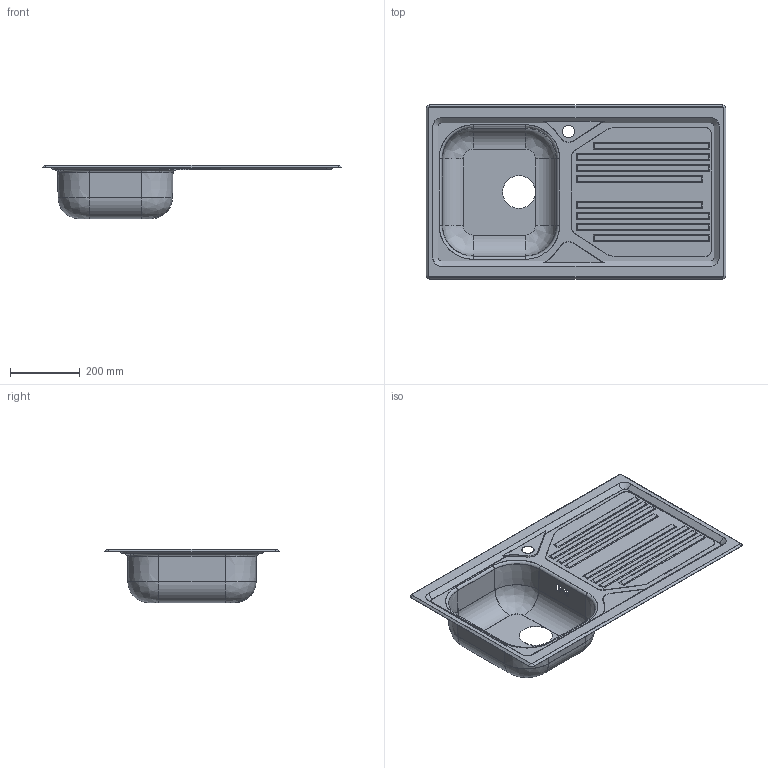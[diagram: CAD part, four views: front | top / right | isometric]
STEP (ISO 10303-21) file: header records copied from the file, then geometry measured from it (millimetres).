
FILE_DESCRIPTION(('CATIA V5 STEP Exchange'),'2;1');
FILE_NAME('\\sr02\Apell\Disegni\DISEGNI\LAVELLI\Omni\Parti\LYP861D\LYP861D.stp','2018-02-23T15:44:06+00:00',('none'),('none'),'CATIA Version 5-6 Release 2014','CATIA V5 STEP AP203','none');
FILE_SCHEMA(('CONFIG_CONTROL_DESIGN'));
Length unit declared in the file: millimetre
Products named in the file (1): 891393
Bounding box: 860 x 500 x 153.6 mm (x, y, z)
Volume: 516969.2 mm3; surface area: 1726466.5 mm2
Topology: 2 solids, 3 shells, 244 faces, 608 edges, 388 vertices
Faces by surface type: plane 150, cylinder 54, cone 24, torus 8, revolution 8
Entity records: 7082 total; most frequent: CARTESIAN_POINT 1510, ORIENTED_EDGE 1216, DIRECTION 942, EDGE_CURVE 608, VERTEX_POINT 388, VECTOR 370, LINE 370, AXIS2_PLACEMENT_3D 352
